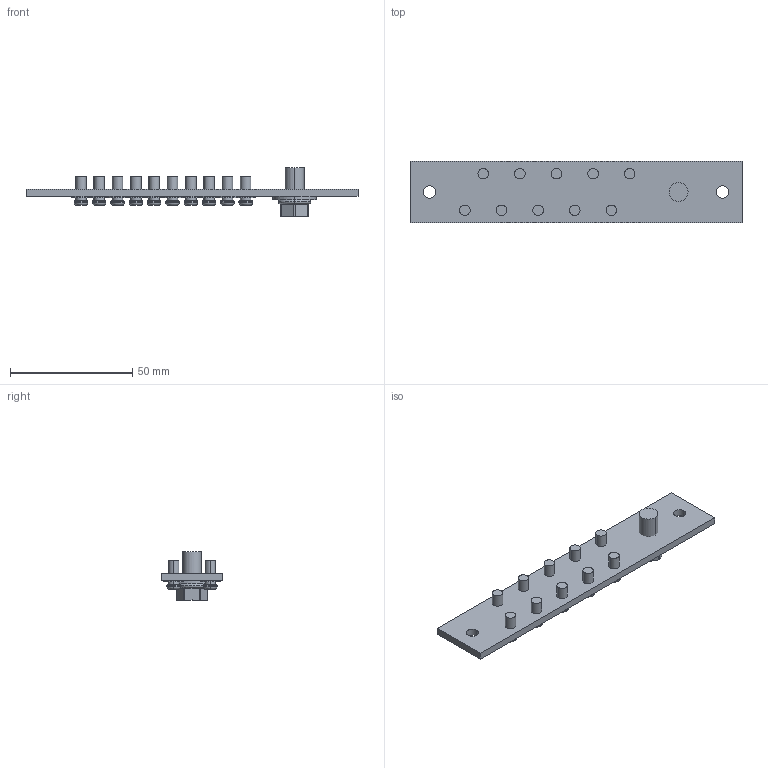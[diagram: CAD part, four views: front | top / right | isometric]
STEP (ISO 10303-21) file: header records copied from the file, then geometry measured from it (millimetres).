
FILE_DESCRIPTION(('Creo Elements/Direct Modeling STEP Export'),'2;1');
FILE_NAME('11.stp','2025-07-24T17:22:20',(''),(''),'PTC Creo Elements/Direct Modeling STEP processor for AP214 (Solid Model)','PTC Creo Elements/Direct Modeling 19.0 09-May-2014 (C) Parametric Technology GmbH','');
FILE_SCHEMA(('AUTOMOTIVE_DESIGN { 1 0 10303 214 1 1 1 1 }'));
Length unit declared in the file: millimetre
Products named in the file (17): QUILT_3-85900_PRT.PRT; QUILT_2-85520_PRT.PRT; M5_1_1_1_1_1_1_1_1_1_1_1_1_1_1_.ASM; CU_PRT.PRT; USER_LIBRARY-SAN_ZU_HE_LUO-2060.PRT; QUILT_1-14960_PRT.PRT; QUILT_2-34360_PRT.PRT; QUILT_3-34740_PRT.PRT; M5_1_1_1_1_1_1_1_1_2_ASM.ASM; A1_ASM.ASM; SCREW_1_1_PRT_PRT.PRT; SCREW_1_2_PRT_PRT.PRT; SCREW_1_ASM_ASM.ASM; SCREW_0723_STP_ASM.ASM; 17N_1_ASM.ASM; 11N_1.ASM; 11.stp
Assembly tree (26 placements, depth 6):
  11.stp
    11N_1.ASM
      17N_1_ASM.ASM
        M5_1_1_1_1_1_1_1_1_2_ASM.ASM  x5
          QUILT_3-34740_PRT.PRT
          QUILT_2-34360_PRT.PRT
          QUILT_1-14960_PRT.PRT
          USER_LIBRARY-SAN_ZU_HE_LUO-2060.PRT
        M5_1_1_1_1_1_1_1_1_1_1_1_1_1_1_.ASM  x2
          QUILT_2-85520_PRT.PRT
          QUILT_3-85900_PRT.PRT
        SCREW_0723_STP_ASM.ASM
          SCREW_1_ASM_ASM.ASM
            SCREW_1_2_PRT_PRT.PRT
            SCREW_1_1_PRT_PRT.PRT
        A1_ASM.ASM
          M5_1_1_1_1_1_1_1_1_2_ASM.ASM  x5
            QUILT_3-34740_PRT.PRT
            QUILT_2-34360_PRT.PRT
            QUILT_1-14960_PRT.PRT
            USER_LIBRARY-SAN_ZU_HE_LUO-2060.PRT
        CU_PRT.PRT
Bounding box: 136 x 25 x 20 mm (x, y, z)
Volume: 13228.3 mm3; surface area: 12652.4 mm2
Topology: 23 solids, 23 shells, 470 faces, 1188 edges, 778 vertices
Faces by surface type: plane 262, cylinder 164, torus 44
Entity records: 4468 total; most frequent: CARTESIAN_POINT 683, DIRECTION 628, ORIENTED_EDGE 612, EDGE_CURVE 306, AXIS2_PLACEMENT_3D 234, VERTEX_POINT 202, VECTOR 160, LINE 160
